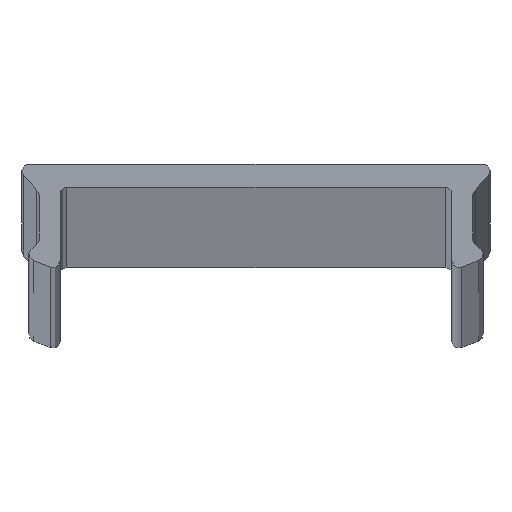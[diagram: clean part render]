
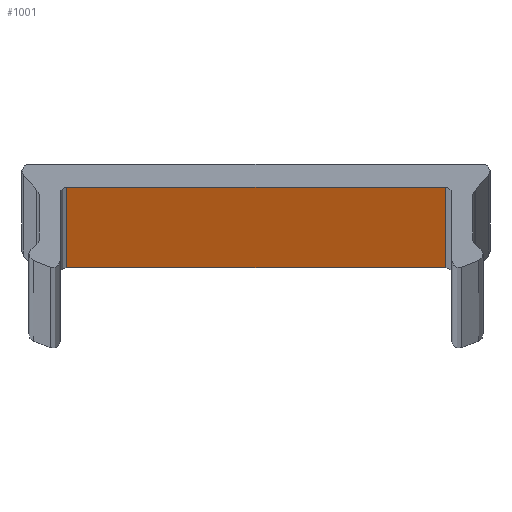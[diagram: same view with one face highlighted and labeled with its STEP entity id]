
A CAD part, top view. The second image highlights one B-rep face of the part: STEP entity #1001.
In plain terms, the highlighted planar face has unit normal (0, -1, 0).
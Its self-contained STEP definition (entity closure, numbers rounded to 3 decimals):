
#335=DIRECTION('',(1.,0.,0.));
#336=VECTOR('',#335,16.4);
#337=CARTESIAN_POINT('',(1.65,-0.7,-1000.));
#338=LINE('',#337,#336);
#467=DIRECTION('',(0.,0.,1.));
#468=VECTOR('',#467,2000.);
#469=CARTESIAN_POINT('',(18.05,-0.7,-1000.));
#470=LINE('',#469,#468);
#471=DIRECTION('',(0.,0.,1.));
#472=VECTOR('',#471,2000.);
#473=CARTESIAN_POINT('',(1.65,-0.7,-1000.));
#474=LINE('',#473,#472);
#575=DIRECTION('',(1.,0.,0.));
#576=VECTOR('',#575,16.4);
#577=CARTESIAN_POINT('',(1.65,-0.7,1000.));
#578=LINE('',#577,#576);
#641=CARTESIAN_POINT('',(18.05,-0.7,-1000.));
#642=VERTEX_POINT('',#641);
#643=CARTESIAN_POINT('',(1.65,-0.7,-1000.));
#644=VERTEX_POINT('',#643);
#689=CARTESIAN_POINT('',(18.05,-0.7,1000.));
#690=VERTEX_POINT('',#689);
#691=CARTESIAN_POINT('',(1.65,-0.7,1000.));
#692=VERTEX_POINT('',#691);
#988=CARTESIAN_POINT('',(1.65,-0.7,-1000.));
#989=DIRECTION('',(0.,-1.,0.));
#990=DIRECTION('',(1.,0.,0.));
#991=AXIS2_PLACEMENT_3D('',#988,#989,#990);
#992=PLANE('',#991);
#993=ORIENTED_EDGE('',*,*,#728,.F.);
#995=ORIENTED_EDGE('',*,*,#994,.T.);
#997=ORIENTED_EDGE('',*,*,#996,.T.);
#998=ORIENTED_EDGE('',*,*,#980,.F.);
#999=EDGE_LOOP('',(#993,#995,#997,#998));
#1000=FACE_OUTER_BOUND('',#999,.F.);
#728=EDGE_CURVE('',#644,#642,#338,.T.);
#980=EDGE_CURVE('',#642,#690,#470,.T.);
#994=EDGE_CURVE('',#644,#692,#474,.T.);
#996=EDGE_CURVE('',#692,#690,#578,.T.);
#1001=ADVANCED_FACE('',(#1000),#992,.T.);
